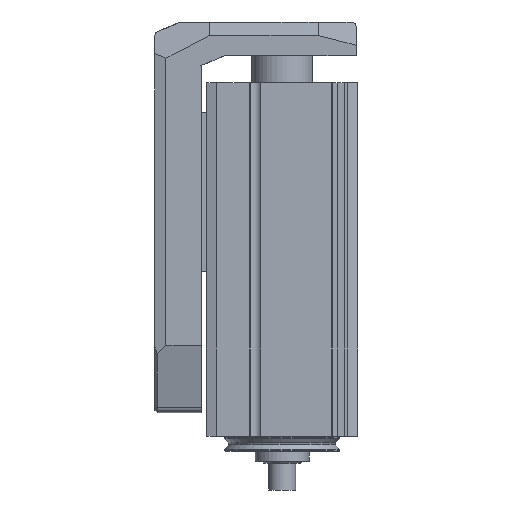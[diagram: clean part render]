
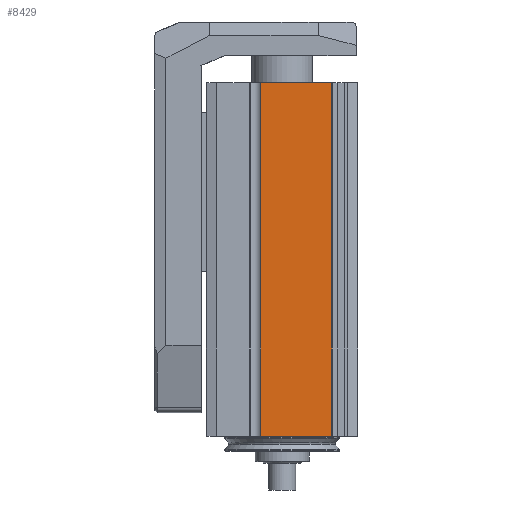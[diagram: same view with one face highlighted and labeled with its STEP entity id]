
A CAD part, left-side view. The second image highlights one B-rep face of the part: STEP entity #8429.
In plain terms, the highlighted planar face has unit normal (-1, 0, 0) as drawn and (0, 0, 1) by its records, which use the part's own axes.
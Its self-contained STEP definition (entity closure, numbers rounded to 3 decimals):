
#773=LINE('',#13561,#1303);
#789=LINE('',#13607,#1319);
#790=LINE('',#13611,#1320);
#791=LINE('',#13613,#1321);
#1303=VECTOR('',#10859,1000.);
#1319=VECTOR('',#10905,1000.);
#1320=VECTOR('',#10910,1000.);
#1321=VECTOR('',#10911,1000.);
#2647=ORIENTED_EDGE('',*,*,#4217,.T.);
#2648=ORIENTED_EDGE('',*,*,#4242,.F.);
#2649=ORIENTED_EDGE('',*,*,#4243,.F.);
#2650=ORIENTED_EDGE('',*,*,#4240,.T.);
#4217=EDGE_CURVE('',#5077,#5076,#773,.T.);
#4240=EDGE_CURVE('',#5092,#5077,#789,.T.);
#4242=EDGE_CURVE('',#5093,#5076,#790,.T.);
#4243=EDGE_CURVE('',#5092,#5093,#791,.T.);
#5076=VERTEX_POINT('',#13560);
#5077=VERTEX_POINT('',#13562);
#5092=VERTEX_POINT('',#13608);
#5093=VERTEX_POINT('',#13612);
#6009=EDGE_LOOP('',(#2647,#2648,#2649,#2650));
#6621=FACE_BOUND('',#6009,.T.);
#6947=PLANE('',#9134);
#8429=ADVANCED_FACE('',(#6621),#6947,.F.);
#9134=AXIS2_PLACEMENT_3D('',#13610,#10908,#10909);
#10859=DIRECTION('',(0.,-1.,0.));
#10905=DIRECTION('',(-1.,0.,0.));
#10908=DIRECTION('',(0.,0.,-1.));
#10909=DIRECTION('',(-1.,0.,0.));
#10910=DIRECTION('',(-1.,0.,0.));
#10911=DIRECTION('',(0.,-1.,0.));
#13560=CARTESIAN_POINT('',(0.,-6.3,22.5));
#13561=CARTESIAN_POINT('',(0.,14.82,22.5));
#13562=CARTESIAN_POINT('',(0.,14.82,22.5));
#13607=CARTESIAN_POINT('',(105.,14.82,22.5));
#13608=CARTESIAN_POINT('',(105.,14.82,22.5));
#13610=CARTESIAN_POINT('',(105.,14.82,22.5));
#13611=CARTESIAN_POINT('',(105.,-6.3,22.5));
#13612=CARTESIAN_POINT('',(105.,-6.3,22.5));
#13613=CARTESIAN_POINT('',(105.,14.82,22.5));
